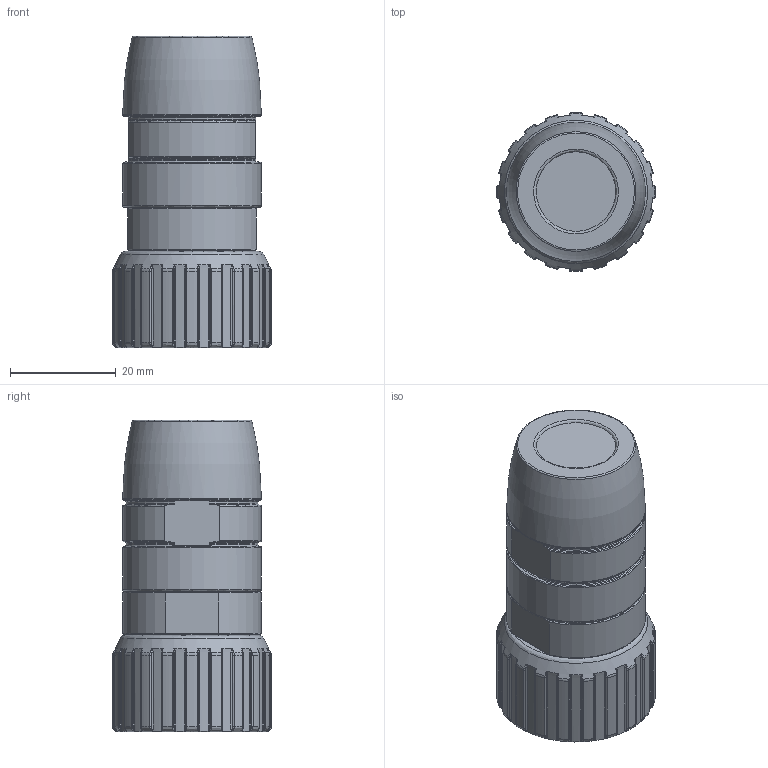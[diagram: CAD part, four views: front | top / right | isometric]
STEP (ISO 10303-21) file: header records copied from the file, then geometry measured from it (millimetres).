
FILE_DESCRIPTION (( 'STEP AP203' ), '1' );
FILE_NAME ('DS_28.step', '2020-05-26T14:07:36', ( '' ), ( '' ), 'SwSTEP 2.0', 'SolidWorks 2017', '' );
FILE_SCHEMA (( 'CONFIG_CONTROL_DESIGN' ));
Length unit declared in the file: millimetre
Products named in the file (1): DS_28
Bounding box: 29.99 x 30 x 58.8 mm (x, y, z)
Volume: 27734 mm3; surface area: 9432.7 mm2
Topology: 1 solids, 1 shells, 678 faces, 1642 edges, 1014 vertices
Faces by surface type: bspline 271, cylinder 220, plane 114, cone 44, torus 29
Full cylindrical faces by diameter (mm): 1.03 x28, 1.05 x28, 1.45 x1, 21.15 x1, 22.4 x1, 22.95 x1, 26 x1, 26.2 x2, 27.3 x1, 27.65 x1
Entity records: 28452 total; most frequent: CARTESIAN_POINT 15884, ORIENTED_EDGE 2814, DIRECTION 2030, EDGE_CURVE 1407, VERTEX_POINT 938, EDGE_LOOP 885, AXIS2_PLACEMENT_3D 861, FACE_OUTER_BOUND 781
